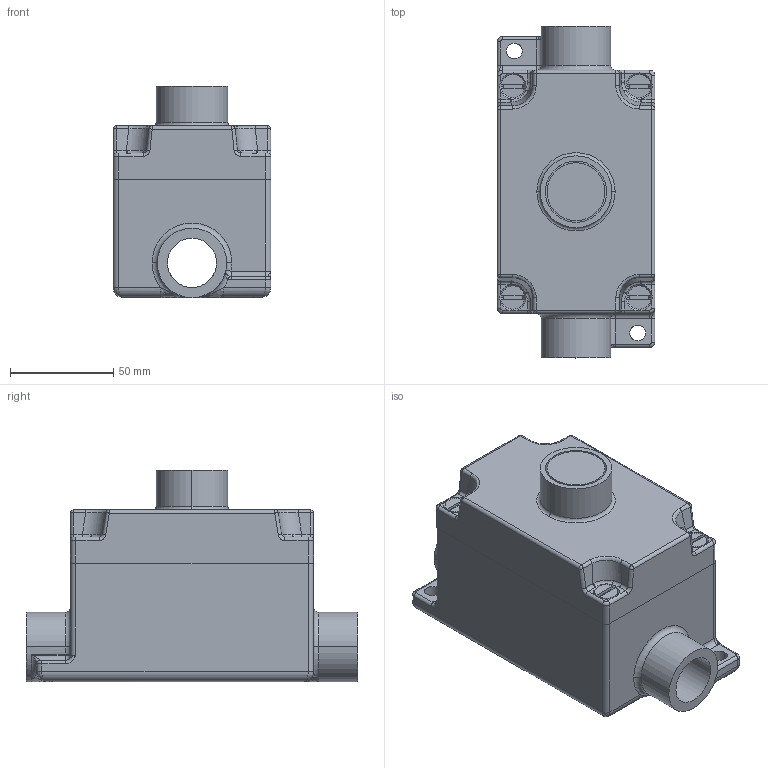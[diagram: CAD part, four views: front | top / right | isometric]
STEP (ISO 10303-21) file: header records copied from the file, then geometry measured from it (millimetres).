
FILE_DESCRIPTION (( 'STEP AP203' ), '1' );
FILE_NAME ('EPS-PB10-MS.STEP', '2017-02-16T16:54:43', ( '' ), ( '' ), 'SwSTEP 2.0', 'SolidWorks 2016', '' );
FILE_SCHEMA (( 'CONFIG_CONTROL_DESIGN' ));
Length unit declared in the file: inch
Products named in the file (1): EPS-PB10-MS
Bounding box: 76.2 x 160.4 x 102.04 mm (x, y, z)
Volume: 430762.5 mm3; surface area: 108433.9 mm2
Topology: 8 solids, 8 shells, 366 faces, 905 edges, 533 vertices
Faces by surface type: cylinder 148, plane 107, torus 34, bspline 34, cone 30, sphere 13
Entity records: 12615 total; most frequent: CARTESIAN_POINT 4083, DIRECTION 1830, ORIENTED_EDGE 1750, EDGE_CURVE 875, AXIS2_PLACEMENT_3D 732, VERTEX_POINT 533, CIRCLE 399, EDGE_LOOP 394
